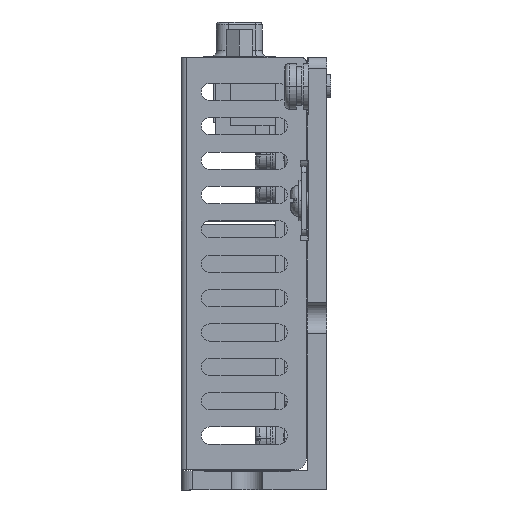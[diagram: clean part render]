
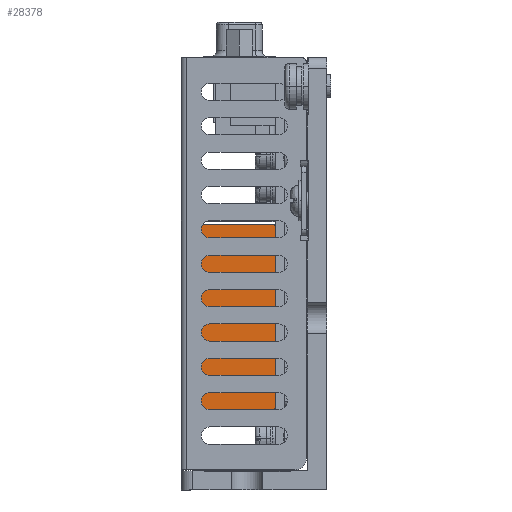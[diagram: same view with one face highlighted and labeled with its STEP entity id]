
A CAD part, left-side view. The second image highlights one B-rep face of the part: STEP entity #28378.
In plain terms, the highlighted planar face has unit normal (-1, 0, 0) as drawn and (0, 0, -1) by its records, which use the part's own axes.
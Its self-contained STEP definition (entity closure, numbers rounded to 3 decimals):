
#25288=CARTESIAN_POINT('',(15.875,12.85,-15.75));
#25289=DIRECTION('',(0.,0.,1.));
#25290=DIRECTION('',(1.,0.,0.));
#25291=AXIS2_PLACEMENT_3D('',#25288,#25289,#25290);
#25293=CARTESIAN_POINT('',(-15.875,12.85,-15.75));
#25294=DIRECTION('',(0.,0.,1.));
#25295=DIRECTION('',(0.,1.,0.));
#25296=AXIS2_PLACEMENT_3D('',#25293,#25294,#25295);
#25298=CARTESIAN_POINT('',(-15.875,0.25,-15.75));
#25299=DIRECTION('',(0.,0.,1.));
#25300=DIRECTION('',(-1.,0.,0.));
#25301=AXIS2_PLACEMENT_3D('',#25298,#25299,#25300);
#25303=CARTESIAN_POINT('',(15.875,0.25,-15.75));
#25304=DIRECTION('',(0.,0.,1.));
#25305=DIRECTION('',(0.,-1.,0.));
#25306=AXIS2_PLACEMENT_3D('',#25303,#25304,#25305);
#25308=DIRECTION('',(1.,0.,0.));
#25309=VECTOR('',#25308,31.75);
#25310=CARTESIAN_POINT('',(-15.875,13.1,-15.75));
#25311=LINE('',#25310,#25309);
#25332=DIRECTION('',(0.,1.,0.));
#25333=VECTOR('',#25332,12.6);
#25334=CARTESIAN_POINT('',(-16.125,0.25,-15.75));
#25335=LINE('',#25334,#25333);
#25348=DIRECTION('',(-1.,0.,0.));
#25349=VECTOR('',#25348,31.75);
#25350=CARTESIAN_POINT('',(15.875,0.,-15.75));
#25351=LINE('',#25350,#25349);
#25544=DIRECTION('',(0.,-1.,0.));
#25545=VECTOR('',#25544,12.6);
#25546=CARTESIAN_POINT('',(16.125,12.85,-15.75));
#25547=LINE('',#25546,#25545);
#28049=CARTESIAN_POINT('',(16.125,12.85,-15.75));
#28050=CARTESIAN_POINT('',(15.875,13.1,-15.75));
#28051=VERTEX_POINT('',#28049);
#28052=VERTEX_POINT('',#28050);
#28053=CARTESIAN_POINT('',(-15.875,13.1,-15.75));
#28054=VERTEX_POINT('',#28053);
#28055=CARTESIAN_POINT('',(-16.125,12.85,-15.75));
#28056=VERTEX_POINT('',#28055);
#28057=CARTESIAN_POINT('',(-16.125,0.25,-15.75));
#28058=VERTEX_POINT('',#28057);
#28059=CARTESIAN_POINT('',(-15.875,0.,-15.75));
#28060=VERTEX_POINT('',#28059);
#28061=CARTESIAN_POINT('',(15.875,0.,-15.75));
#28062=VERTEX_POINT('',#28061);
#28063=CARTESIAN_POINT('',(16.125,0.25,-15.75));
#28064=VERTEX_POINT('',#28063);
#28356=CARTESIAN_POINT('',(0.,0.,-15.75));
#28357=DIRECTION('',(0.,0.,1.));
#28358=DIRECTION('',(1.,0.,0.));
#28359=AXIS2_PLACEMENT_3D('',#28356,#28357,#28358);
#28360=PLANE('',#28359);
#28361=ORIENTED_EDGE('',*,*,#28346,.T.);
#28363=ORIENTED_EDGE('',*,*,#28362,.F.);
#28365=ORIENTED_EDGE('',*,*,#28364,.T.);
#28367=ORIENTED_EDGE('',*,*,#28366,.F.);
#28369=ORIENTED_EDGE('',*,*,#28368,.T.);
#28371=ORIENTED_EDGE('',*,*,#28370,.F.);
#28373=ORIENTED_EDGE('',*,*,#28372,.T.);
#28375=ORIENTED_EDGE('',*,*,#28374,.F.);
#28376=EDGE_LOOP('',(#28361,#28363,#28365,#28367,#28369,#28371,#28373,#28375));
#28377=FACE_OUTER_BOUND('',#28376,.F.);
#28378=ADVANCED_FACE('',(#28377),#28360,.F.);
#25292=CIRCLE('',#25291,0.25);
#25297=CIRCLE('',#25296,0.25);
#25302=CIRCLE('',#25301,0.25);
#25307=CIRCLE('',#25306,0.25);
#28346=EDGE_CURVE('',#28051,#28052,#25292,.T.);
#28362=EDGE_CURVE('',#28054,#28052,#25311,.T.);
#28364=EDGE_CURVE('',#28054,#28056,#25297,.T.);
#28366=EDGE_CURVE('',#28058,#28056,#25335,.T.);
#28368=EDGE_CURVE('',#28058,#28060,#25302,.T.);
#28370=EDGE_CURVE('',#28062,#28060,#25351,.T.);
#28372=EDGE_CURVE('',#28062,#28064,#25307,.T.);
#28374=EDGE_CURVE('',#28051,#28064,#25547,.T.);
